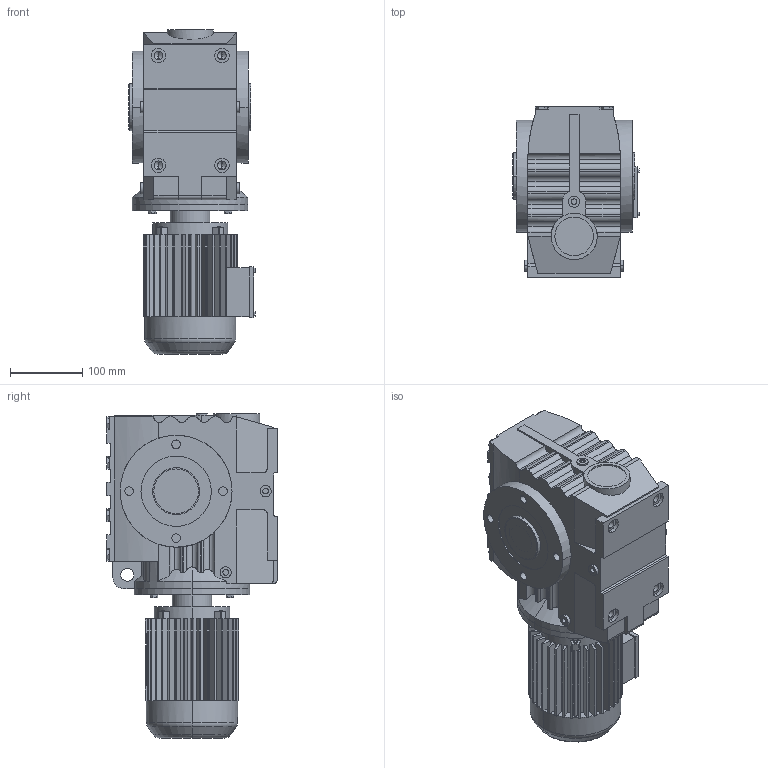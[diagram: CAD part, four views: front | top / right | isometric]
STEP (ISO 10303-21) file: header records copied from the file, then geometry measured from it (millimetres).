
FILE_DESCRIPTION(('Open CASCADE Model'),'2;1');
FILE_NAME('Open CASCADE Shape Model','2018-09-12T14:53:46',('Author'),( 'Open CASCADE'),'Open CASCADE STEP processor 6.3','Open CASCADE 6.3' ,'Unknown');
FILE_SCHEMA(('AUTOMOTIVE_DESIGN_CC2 { 1 2 10303 214 -1 1 5 4 }'));
Length unit declared in the file: millimetre
Products named in the file (4): 289_SA67-Y63S-40-A-W; SA47‵97_67.step; 萇儂_160_Y63S.step; す瑩諾陑粣S_67_40.step
Assembly tree (3 placements, depth 2):
  289_SA67-Y63S-40-A-W
    SA47‵97_67.step
    萇儂_160_Y63S.step
    す瑩諾陑粣S_67_40.step
Bounding box: 174.84 x 236 x 449 mm (x, y, z)
Volume: 9218699.2 mm3; surface area: 600544 mm2
Topology: 3 solids, 3 shells, 797 faces, 2094 edges, 1356 vertices
Faces by surface type: plane 519, cylinder 259, cone 15, torus 4
Entity records: 59019 total; most frequent: CARTESIAN_POINT 19717, DIRECTION 6677, ORIENTED_EDGE 4172, PCURVE 4172, DEFINITIONAL_REPRESENTATION 4172, LINE 3500, VECTOR 3500, EDGE_CURVE 2086
